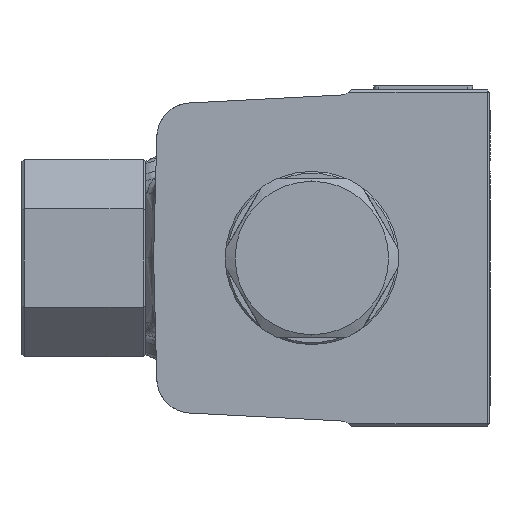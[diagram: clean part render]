
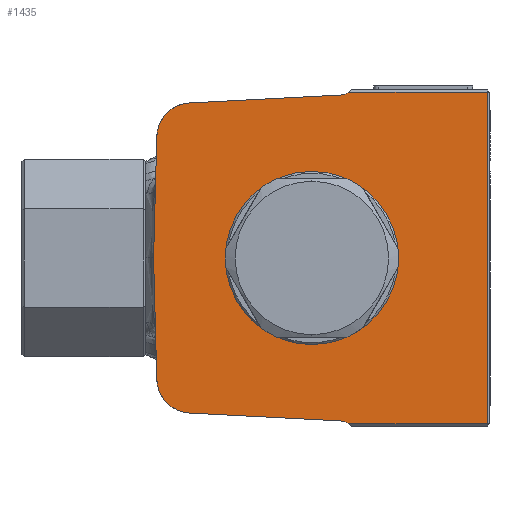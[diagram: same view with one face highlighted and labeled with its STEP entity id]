
A CAD part, left-side view. The second image highlights one B-rep face of the part: STEP entity #1435.
In plain terms, the highlighted planar face has unit normal (-1, 0, 0).
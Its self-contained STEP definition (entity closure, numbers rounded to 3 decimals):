
#189 = CIRCLE ( 'NONE', #15128, 16. ) ;
#355 = DIRECTION ( 'NONE',  ( 0., 0., 1. ) ) ;
#573 = VECTOR ( 'NONE', #21226, 1000. ) ;
#922 = EDGE_CURVE ( 'NONE', #23846, #21916, #11723, .T. ) ;
#1435 = ADVANCED_FACE ( 'NONE', ( #4610, #21458 ), #14274, .T. ) ;
#1493 = DIRECTION ( 'NONE',  ( 0., -0.999, -0.052 ) ) ;
#2050 = ORIENTED_EDGE ( 'NONE', *, *, #5778, .T. ) ;
#2103 = DIRECTION ( 'NONE',  ( 1., 0., 0. ) ) ;
#2387 = CARTESIAN_POINT ( 'NONE',  ( -46.6, -36., -34. ) ) ;
#2668 = CARTESIAN_POINT ( 'NONE',  ( -46.6, 32., 0. ) ) ;
#3025 = CARTESIAN_POINT ( 'NONE',  ( -46.6, -5.85, 32.94 ) ) ;
#3046 = CARTESIAN_POINT ( 'NONE',  ( -46.6, 31.978, -0.837 ) ) ;
#3094 = ORIENTED_EDGE ( 'NONE', *, *, #29172, .T. ) ;
#3221 = AXIS2_PLACEMENT_3D ( 'NONE', #4726, #13780, #9225 ) ;
#3255 = ORIENTED_EDGE ( 'NONE', *, *, #21037, .F. ) ;
#3433 = EDGE_CURVE ( 'NONE', #4177, #21916, #13127, .T. ) ;
#4157 = EDGE_CURVE ( 'NONE', #5791, #10757, #28710, .T. ) ;
#4177 = VERTEX_POINT ( 'NONE', #14025 ) ;
#4462 = CARTESIAN_POINT ( 'NONE',  ( -46.6, 31.358, -24.53 ) ) ;
#4610 = FACE_OUTER_BOUND ( 'NONE', #15352, .T. ) ;
#4694 = VERTEX_POINT ( 'NONE', #5840 ) ;
#4726 = CARTESIAN_POINT ( 'NONE',  ( -46.6, -5.693, 35.936 ) ) ;
#4732 = LINE ( 'NONE', #28662, #7147 ) ;
#5082 = DIRECTION ( 'NONE',  ( 0., 0., 1. ) ) ;
#5641 = VERTEX_POINT ( 'NONE', #11736 ) ;
#5778 = EDGE_CURVE ( 'NONE', #18885, #4694, #8976, .T. ) ;
#5791 = VERTEX_POINT ( 'NONE', #30433 ) ;
#5840 = CARTESIAN_POINT ( 'NONE',  ( -46.6, -5.85, -32.94 ) ) ;
#5937 = EDGE_CURVE ( 'NONE', #4694, #19269, #28827, .T. ) ;
#6139 = CARTESIAN_POINT ( 'NONE',  ( -46.6, 24.36, 24.347 ) ) ;
#7113 = CARTESIAN_POINT ( 'NONE',  ( -46.6, 0., 0. ) ) ;
#7133 = DIRECTION ( 'NONE',  ( -1., 0., 0. ) ) ;
#7147 = VECTOR ( 'NONE', #21733, 1000. ) ;
#7361 = EDGE_CURVE ( 'NONE', #4177, #22214, #27918, .T. ) ;
#8976 = LINE ( 'NONE', #30282, #27987 ) ;
#9161 = CARTESIAN_POINT ( 'NONE',  ( -46.6, 0., 0. ) ) ;
#9225 = DIRECTION ( 'NONE',  ( 0., 0., 1. ) ) ;
#9350 = CARTESIAN_POINT ( 'NONE',  ( -46.6, -36., -33.5 ) ) ;
#9351 = EDGE_CURVE ( 'NONE', #10757, #5791, #189, .T. ) ;
#9592 = ORIENTED_EDGE ( 'NONE', *, *, #3433, .F. ) ;
#9609 = VERTEX_POINT ( 'NONE', #4462 ) ;
#9872 = CARTESIAN_POINT ( 'NONE',  ( -46.6, 24.36, -24.347 ) ) ;
#9878 = EDGE_CURVE ( 'NONE', #19269, #15292, #25955, .T. ) ;
#10757 = VERTEX_POINT ( 'NONE', #23812 ) ;
#10778 = VERTEX_POINT ( 'NONE', #2668 ) ;
#10929 = AXIS2_PLACEMENT_3D ( 'NONE', #6139, #15506, #25090 ) ;
#11723 = CIRCLE ( 'NONE', #3221, 3. ) ;
#11736 = CARTESIAN_POINT ( 'NONE',  ( -46.6, -35.5, 33.5 ) ) ;
#11799 = CARTESIAN_POINT ( 'NONE',  ( -46.6, -35.5, -33.5 ) ) ;
#11890 = EDGE_CURVE ( 'NONE', #10778, #22214, #18007, .T. ) ;
#12159 = VECTOR ( 'NONE', #355, 1000. ) ;
#12583 = DIRECTION ( 'NONE',  ( 0., -0.026, -1. ) ) ;
#13127 = LINE ( 'NONE', #22514, #16348 ) ;
#13780 = DIRECTION ( 'NONE',  ( 1., 0., 0. ) ) ;
#13958 = DIRECTION ( 'NONE',  ( 1., 0., 0. ) ) ;
#14025 = CARTESIAN_POINT ( 'NONE',  ( -46.6, 24.726, 31.337 ) ) ;
#14121 = DIRECTION ( 'NONE',  ( -1., 0., 0. ) ) ;
#14248 = LINE ( 'NONE', #23496, #12159 ) ;
#14264 = CARTESIAN_POINT ( 'NONE',  ( -46.6, 24.726, -31.337 ) ) ;
#14274 = PLANE ( 'NONE',  #29774 ) ;
#14459 = DIRECTION ( 'NONE',  ( 0., -1., 0. ) ) ;
#14584 = ORIENTED_EDGE ( 'NONE', *, *, #922, .T. ) ;
#15128 = AXIS2_PLACEMENT_3D ( 'NONE', #7113, #17261, #14459 ) ;
#15292 = VERTEX_POINT ( 'NONE', #11799 ) ;
#15352 = EDGE_LOOP ( 'NONE', ( #3094, #20475, #14584, #9592, #26368, #20020, #22152, #3255, #2050, #16116, #20002 ) ) ;
#15506 = DIRECTION ( 'NONE',  ( -1., 0., 0. ) ) ;
#16116 = ORIENTED_EDGE ( 'NONE', *, *, #5937, .T. ) ;
#16348 = VECTOR ( 'NONE', #17493, 1000. ) ;
#16704 = CIRCLE ( 'NONE', #28722, 7. ) ;
#17261 = DIRECTION ( 'NONE',  ( -1., 0., 0. ) ) ;
#17493 = DIRECTION ( 'NONE',  ( 0., -0.999, 0.052 ) ) ;
#18007 = LINE ( 'NONE', #20665, #21943 ) ;
#18168 = DIRECTION ( 'NONE',  ( 0., -0.026, 1. ) ) ;
#18885 = VERTEX_POINT ( 'NONE', #14264 ) ;
#19222 = EDGE_LOOP ( 'NONE', ( #24163, #29842 ) ) ;
#19269 = VERTEX_POINT ( 'NONE', #29738 ) ;
#19749 = VECTOR ( 'NONE', #12583, 1000. ) ;
#20002 = ORIENTED_EDGE ( 'NONE', *, *, #9878, .T. ) ;
#20020 = ORIENTED_EDGE ( 'NONE', *, *, #11890, .F. ) ;
#20475 = ORIENTED_EDGE ( 'NONE', *, *, #29191, .T. ) ;
#20665 = CARTESIAN_POINT ( 'NONE',  ( -46.6, 31.978, 0.837 ) ) ;
#20974 = CARTESIAN_POINT ( 'NONE',  ( -46.6, -7.444, 33.5 ) ) ;
#21037 = EDGE_CURVE ( 'NONE', #18885, #9609, #16704, .T. ) ;
#21226 = DIRECTION ( 'NONE',  ( 0., -1., 0. ) ) ;
#21458 = FACE_BOUND ( 'NONE', #19222, .T. ) ;
#21733 = DIRECTION ( 'NONE',  ( 0., 1., 0. ) ) ;
#21916 = VERTEX_POINT ( 'NONE', #3025 ) ;
#21943 = VECTOR ( 'NONE', #18168, 1000. ) ;
#22025 = CARTESIAN_POINT ( 'NONE',  ( -46.6, 31.358, 24.53 ) ) ;
#22152 = ORIENTED_EDGE ( 'NONE', *, *, #26786, .T. ) ;
#22214 = VERTEX_POINT ( 'NONE', #22025 ) ;
#22514 = CARTESIAN_POINT ( 'NONE',  ( -46.6, 1.706, 32.544 ) ) ;
#23496 = CARTESIAN_POINT ( 'NONE',  ( -46.6, -35.5, -34. ) ) ;
#23508 = DIRECTION ( 'NONE',  ( 0., 0., 1. ) ) ;
#23735 = DIRECTION ( 'NONE',  ( 0., -1., 0. ) ) ;
#23812 = CARTESIAN_POINT ( 'NONE',  ( -46.6, 16., 0. ) ) ;
#23846 = VERTEX_POINT ( 'NONE', #20974 ) ;
#24014 = CARTESIAN_POINT ( 'NONE',  ( -46.6, -5.693, -35.936 ) ) ;
#24163 = ORIENTED_EDGE ( 'NONE', *, *, #4157, .F. ) ;
#24502 = LINE ( 'NONE', #3046, #19749 ) ;
#24819 = AXIS2_PLACEMENT_3D ( 'NONE', #24014, #2103, #5082 ) ;
#25090 = DIRECTION ( 'NONE',  ( 0., 0., 1. ) ) ;
#25874 = DIRECTION ( 'NONE',  ( 0., 0., 1. ) ) ;
#25955 = LINE ( 'NONE', #9350, #573 ) ;
#26368 = ORIENTED_EDGE ( 'NONE', *, *, #7361, .T. ) ;
#26786 = EDGE_CURVE ( 'NONE', #10778, #9609, #24502, .T. ) ;
#27918 = CIRCLE ( 'NONE', #10929, 7. ) ;
#27987 = VECTOR ( 'NONE', #1493, 1000. ) ;
#28662 = CARTESIAN_POINT ( 'NONE',  ( -46.6, -36., 33.5 ) ) ;
#28710 = CIRCLE ( 'NONE', #29727, 16. ) ;
#28722 = AXIS2_PLACEMENT_3D ( 'NONE', #9872, #13958, #23508 ) ;
#28827 = CIRCLE ( 'NONE', #24819, 3. ) ;
#29172 = EDGE_CURVE ( 'NONE', #15292, #5641, #14248, .T. ) ;
#29191 = EDGE_CURVE ( 'NONE', #5641, #23846, #4732, .T. ) ;
#29727 = AXIS2_PLACEMENT_3D ( 'NONE', #9161, #7133, #23735 ) ;
#29738 = CARTESIAN_POINT ( 'NONE',  ( -46.6, -7.444, -33.5 ) ) ;
#29774 = AXIS2_PLACEMENT_3D ( 'NONE', #2387, #14121, #25874 ) ;
#29842 = ORIENTED_EDGE ( 'NONE', *, *, #9351, .F. ) ;
#30282 = CARTESIAN_POINT ( 'NONE',  ( -46.6, 1.706, -32.544 ) ) ;
#30433 = CARTESIAN_POINT ( 'NONE',  ( -46.6, -16., 0. ) ) ;
